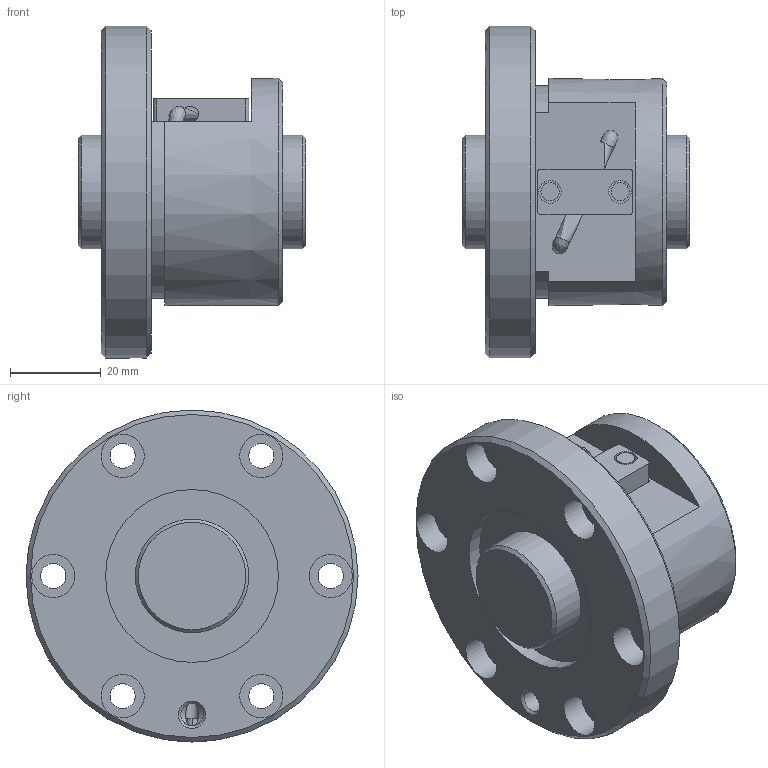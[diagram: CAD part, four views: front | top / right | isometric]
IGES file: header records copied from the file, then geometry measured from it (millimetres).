
Start section: Data from Parasolid IGES Translator 26.0.171, Copyright(c) 2006 Siemens PLM Software. All Rights Reserved.
Global section: file name: BNF2505V-2.5RRG1+50LC0_000_rev.igs; native system: By Siemens PLM Incorporated; preprocessor: XPlus GENERIC/IGES 26.0.171; author: Noname; organization: Noname; date: 20240806.072906; units: millimetre
Bounding box: 50 x 73 x 73 mm (x, y, z)
Surface area: 25174.7 mm2 (no closed solid volume)
Topology: 0 solids, 0 shells, 72 faces, 316 edges, 268 vertices
Faces by surface type: revolution 45, extrusion 27
